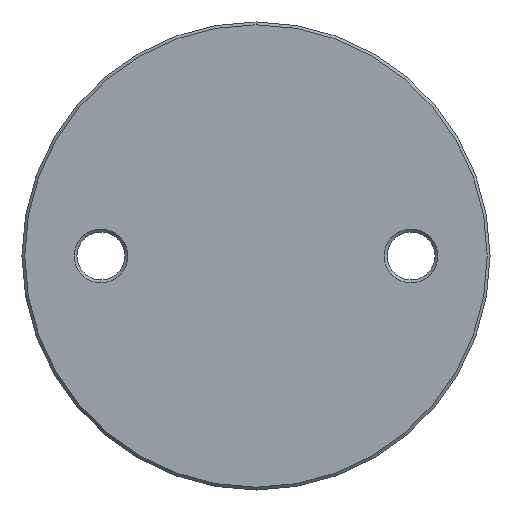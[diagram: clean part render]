
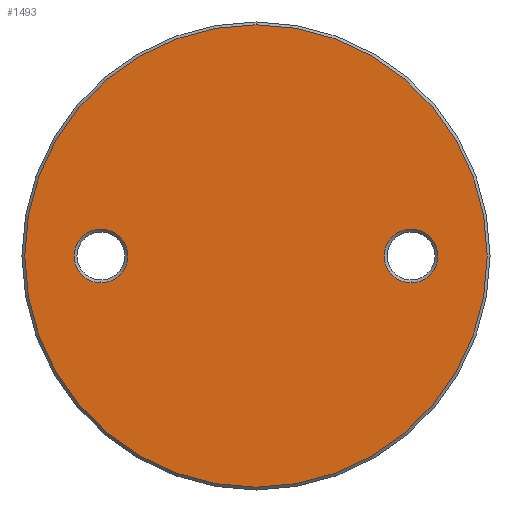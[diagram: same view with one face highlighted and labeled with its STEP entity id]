
A CAD part, front view. The second image highlights one B-rep face of the part: STEP entity #1493.
In plain terms, the highlighted planar face has unit normal (0, -1, 0).
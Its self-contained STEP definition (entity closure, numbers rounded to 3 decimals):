
#80 = DIRECTION ( 'NONE',  ( 0., -1., 0. ) ) ;
#260 = AXIS2_PLACEMENT_3D ( 'NONE', #3092, #4510, #4447 ) ;
#613 = VERTEX_POINT ( 'NONE', #6128 ) ;
#1201 = CIRCLE ( 'NONE', #3902, 4.75 ) ;
#1269 = VERTEX_POINT ( 'NONE', #2727 ) ;
#1327 = CARTESIAN_POINT ( 'NONE',  ( -27.5, -3., -4.75 ) ) ;
#1330 = CARTESIAN_POINT ( 'NONE',  ( 27.5, -3., -4.75 ) ) ;
#1493 = ADVANCED_FACE ( 'NONE', ( #2088, #1844, #7361 ), #1663, .T. ) ;
#1595 = AXIS2_PLACEMENT_3D ( 'NONE', #5234, #8058, #3733 ) ;
#1663 = PLANE ( 'NONE',  #1595 ) ;
#1733 = ORIENTED_EDGE ( 'NONE', *, *, #6948, .T. ) ;
#1755 = ORIENTED_EDGE ( 'NONE', *, *, #4353, .T. ) ;
#1844 = FACE_BOUND ( 'NONE', #7156, .T. ) ;
#2088 = FACE_BOUND ( 'NONE', #7231, .T. ) ;
#2234 = CIRCLE ( 'NONE', #6374, 4.75 ) ;
#2422 = CIRCLE ( 'NONE', #4288, 41. ) ;
#2426 = DIRECTION ( 'NONE',  ( 0., 1., 0. ) ) ;
#2450 = CARTESIAN_POINT ( 'NONE',  ( 27.5, -3., 0. ) ) ;
#2633 = CARTESIAN_POINT ( 'NONE',  ( -27.5, -3., 0. ) ) ;
#2687 = ORIENTED_EDGE ( 'NONE', *, *, #5785, .T. ) ;
#2727 = CARTESIAN_POINT ( 'NONE',  ( 0., -3., -41. ) ) ;
#2931 = CIRCLE ( 'NONE', #5504, 4.75 ) ;
#2944 = EDGE_CURVE ( 'NONE', #5719, #3088, #2931, .T. ) ;
#2978 = ORIENTED_EDGE ( 'NONE', *, *, #4905, .T. ) ;
#3088 = VERTEX_POINT ( 'NONE', #1327 ) ;
#3092 = CARTESIAN_POINT ( 'NONE',  ( 27.5, -3., 0. ) ) ;
#3184 = CARTESIAN_POINT ( 'NONE',  ( -27.5, -3., 0. ) ) ;
#3201 = VERTEX_POINT ( 'NONE', #9181 ) ;
#3491 = DIRECTION ( 'NONE',  ( 0., -1., 0. ) ) ;
#3733 = DIRECTION ( 'NONE',  ( 0., 0., -1. ) ) ;
#3902 = AXIS2_PLACEMENT_3D ( 'NONE', #2450, #5440, #3938 ) ;
#3938 = DIRECTION ( 'NONE',  ( 0., 0., -1. ) ) ;
#4288 = AXIS2_PLACEMENT_3D ( 'NONE', #7907, #3491, #4303 ) ;
#4303 = DIRECTION ( 'NONE',  ( 0., 0., -1. ) ) ;
#4353 = EDGE_CURVE ( 'NONE', #3088, #5719, #2234, .T. ) ;
#4447 = DIRECTION ( 'NONE',  ( 0., 0., -1. ) ) ;
#4510 = DIRECTION ( 'NONE',  ( 0., 1., 0. ) ) ;
#4718 = DIRECTION ( 'NONE',  ( 0., 1., 0. ) ) ;
#4905 = EDGE_CURVE ( 'NONE', #6844, #3201, #1201, .T. ) ;
#5219 = CARTESIAN_POINT ( 'NONE',  ( 0., -3., 0. ) ) ;
#5234 = CARTESIAN_POINT ( 'NONE',  ( 0., -3., 41.5 ) ) ;
#5440 = DIRECTION ( 'NONE',  ( 0., 1., 0. ) ) ;
#5504 = AXIS2_PLACEMENT_3D ( 'NONE', #3184, #2426, #6029 ) ;
#5719 = VERTEX_POINT ( 'NONE', #7646 ) ;
#5785 = EDGE_CURVE ( 'NONE', #1269, #613, #2422, .T. ) ;
#5815 = DIRECTION ( 'NONE',  ( 0., 0., -1. ) ) ;
#5888 = ORIENTED_EDGE ( 'NONE', *, *, #2944, .T. ) ;
#6029 = DIRECTION ( 'NONE',  ( 0., 0., -1. ) ) ;
#6111 = DIRECTION ( 'NONE',  ( 0., 0., -1. ) ) ;
#6128 = CARTESIAN_POINT ( 'NONE',  ( 0., -3., 41. ) ) ;
#6374 = AXIS2_PLACEMENT_3D ( 'NONE', #2633, #4718, #6111 ) ;
#6649 = ORIENTED_EDGE ( 'NONE', *, *, #8276, .T. ) ;
#6727 = EDGE_LOOP ( 'NONE', ( #1733, #2687 ) ) ;
#6844 = VERTEX_POINT ( 'NONE', #1330 ) ;
#6948 = EDGE_CURVE ( 'NONE', #613, #1269, #7023, .T. ) ;
#7023 = CIRCLE ( 'NONE', #7065, 41. ) ;
#7065 = AXIS2_PLACEMENT_3D ( 'NONE', #5219, #80, #5815 ) ;
#7114 = CIRCLE ( 'NONE', #260, 4.75 ) ;
#7156 = EDGE_LOOP ( 'NONE', ( #1755, #5888 ) ) ;
#7231 = EDGE_LOOP ( 'NONE', ( #2978, #6649 ) ) ;
#7361 = FACE_OUTER_BOUND ( 'NONE', #6727, .T. ) ;
#7646 = CARTESIAN_POINT ( 'NONE',  ( -27.5, -3., 4.75 ) ) ;
#7907 = CARTESIAN_POINT ( 'NONE',  ( 0., -3., 0. ) ) ;
#8058 = DIRECTION ( 'NONE',  ( 0., -1., 0. ) ) ;
#8276 = EDGE_CURVE ( 'NONE', #3201, #6844, #7114, .T. ) ;
#9181 = CARTESIAN_POINT ( 'NONE',  ( 27.5, -3., 4.75 ) ) ;
